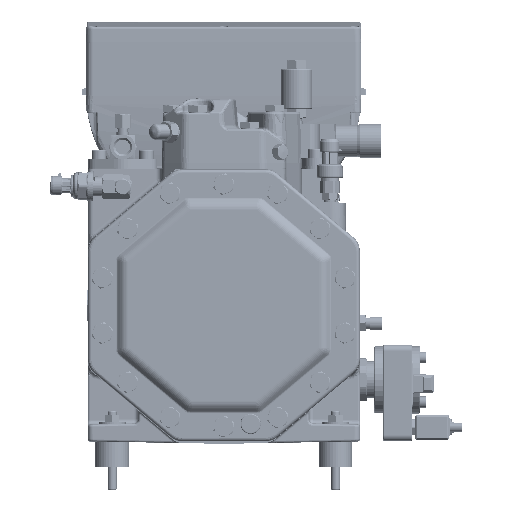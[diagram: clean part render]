
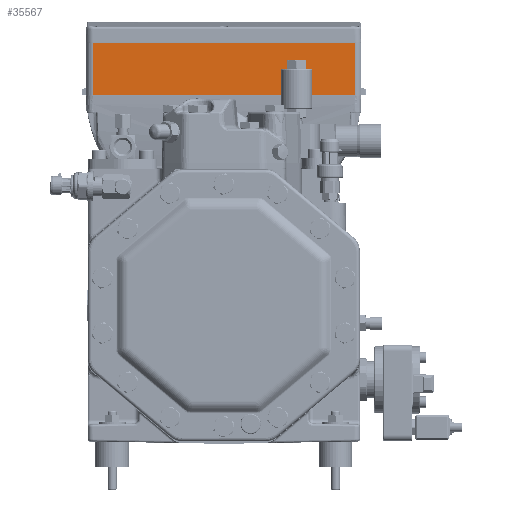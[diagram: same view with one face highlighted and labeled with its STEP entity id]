
A CAD part, left-side view. The second image highlights one B-rep face of the part: STEP entity #35567.
In plain terms, the highlighted planar face has unit normal (-1, 0, 0) as drawn and (1, 0, 0) by its records, which use the part's own axes.
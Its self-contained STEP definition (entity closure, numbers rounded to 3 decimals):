
#20517=LINE('',#217711,#27431);
#20617=LINE('',#218341,#27531);
#20618=LINE('',#218344,#27532);
#20619=LINE('',#218345,#27533);
#27431=VECTOR('',#147865,1.);
#27531=VECTOR('',#148149,1.);
#27532=VECTOR('',#148150,1.);
#27533=VECTOR('',#148151,1.);
#35567=ADVANCED_FACE('',(#44586),#39206,.T.);
#39206=PLANE('',#123531);
#44586=FACE_OUTER_BOUND('',#52016,.T.);
#52016=EDGE_LOOP('',(#80226,#80227,#80228,#80229));
#80226=ORIENTED_EDGE('',*,*,#109098,.F.);
#80227=ORIENTED_EDGE('',*,*,#109099,.T.);
#80228=ORIENTED_EDGE('',*,*,#108902,.T.);
#80229=ORIENTED_EDGE('',*,*,#109100,.T.);
#93753=VERTEX_POINT('',#217710);
#93754=VERTEX_POINT('',#217712);
#93932=VERTEX_POINT('',#218342);
#93933=VERTEX_POINT('',#218343);
#108902=EDGE_CURVE('',#93754,#93753,#20517,.T.);
#109098=EDGE_CURVE('',#93932,#93933,#20617,.T.);
#109099=EDGE_CURVE('',#93932,#93754,#20618,.T.);
#109100=EDGE_CURVE('',#93753,#93933,#20619,.T.);
#123531=AXIS2_PLACEMENT_3D('',#218346,#148152,#148153);
#147865=DIRECTION('',(0.,1.,0.));
#148149=DIRECTION('',(0.,1.,0.));
#148150=DIRECTION('',(0.,0.,-1.));
#148151=DIRECTION('',(0.,0.,1.));
#148152=DIRECTION('',(1.,0.,0.));
#148153=DIRECTION('',(0.,0.,1.));
#217710=CARTESIAN_POINT('',(73.,116.,66.));
#217711=CARTESIAN_POINT('',(73.,0.,66.));
#217712=CARTESIAN_POINT('',(73.,-116.,66.));
#218341=CARTESIAN_POINT('',(73.,0.,111.5));
#218342=CARTESIAN_POINT('',(73.,-116.,111.5));
#218343=CARTESIAN_POINT('',(73.,116.,111.5));
#218344=CARTESIAN_POINT('',(73.,-116.,114.));
#218345=CARTESIAN_POINT('',(73.,116.,114.));
#218346=CARTESIAN_POINT('',(73.,0.,114.));
